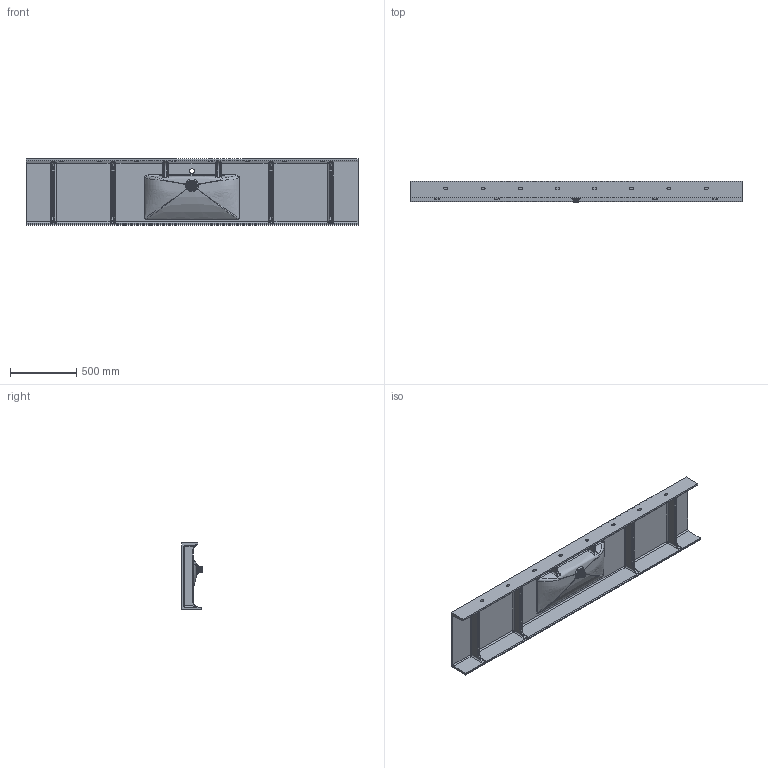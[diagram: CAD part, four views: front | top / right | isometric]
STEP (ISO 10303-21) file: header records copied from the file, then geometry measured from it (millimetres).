
FILE_DESCRIPTION (( 'STEP AP203' ), '1' );
FILE_NAME ('MALIBU70-P.STEP', '2021-09-10T09:19:09', ( '' ), ( '' ), 'SwSTEP 2.0', 'SolidWorks 2020', '' );
FILE_SCHEMA (( 'CONFIG_CONTROL_DESIGN' ));
Products named in the file (1): MALIBU70-P
Bounding box: 2500 x 163.47 x 500 mm (x, y, z)
Volume: 29671589.3 mm3; surface area: 4230552.4 mm2
Topology: 8 solids, 8 shells, 600 faces, 1601 edges, 973 vertices
Faces by surface type: cylinder 241, bspline 158, plane 117, torus 33, sphere 27, cone 24
Entity records: 156958 total; most frequent: CARTESIAN_POINT 143633, ORIENTED_EDGE 3128, DIRECTION 2405, EDGE_CURVE 1564, VERTEX_POINT 973, AXIS2_PLACEMENT_3D 936, EDGE_LOOP 649, ADVANCED_FACE 600
